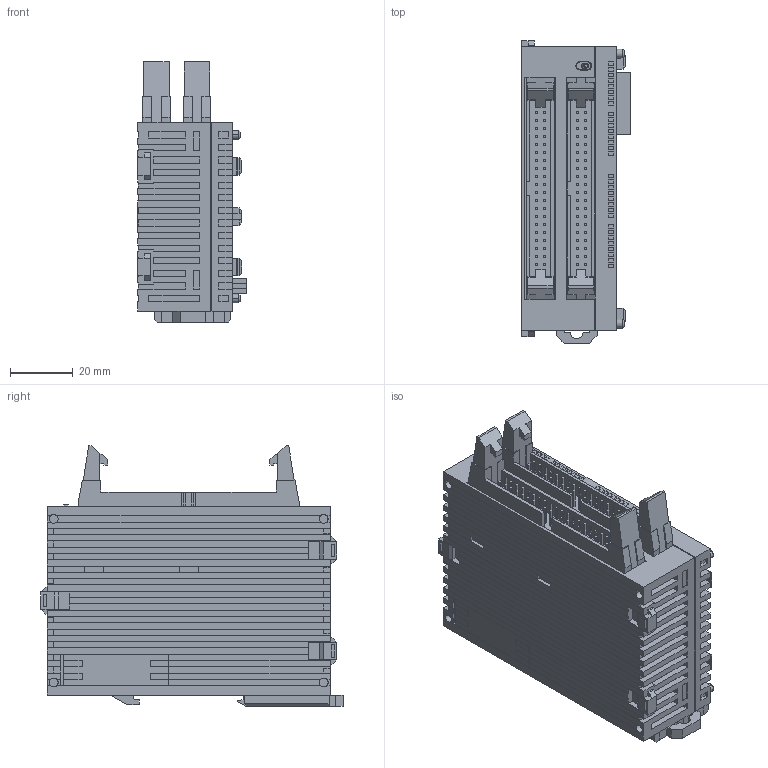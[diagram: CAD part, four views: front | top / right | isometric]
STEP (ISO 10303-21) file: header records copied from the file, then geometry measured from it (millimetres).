
FILE_DESCRIPTION (( 'STEP AP203' ), '1' );
FILE_NAME ('afpg3467.STEP', '2013-07-17T06:30:38', ( 'sunx' ), ( 'sunx' ), 'SwSTEP 2.0', 'SolidWorks 2010', '' );
FILE_SCHEMA (( 'CONFIG_CONTROL_DESIGN' ));
Length unit declared in the file: millimetre
Products named in the file (1): afpg3467
Bounding box: 34.5 x 96.1 x 82.7 mm (x, y, z)
Volume: 163521.7 mm3; surface area: 36638.3 mm2
Topology: 1 solids, 2 shells, 1405 faces, 3686 edges, 2444 vertices
Faces by surface type: plane 1347, cylinder 42, bspline 8, cone 8
Entity records: 42927 total; most frequent: CARTESIAN_POINT 8083, ORIENTED_EDGE 7372, DIRECTION 6567, EDGE_CURVE 3686, VECTOR 3545, LINE 3545, VERTEX_POINT 2444, EDGE_LOOP 1570
